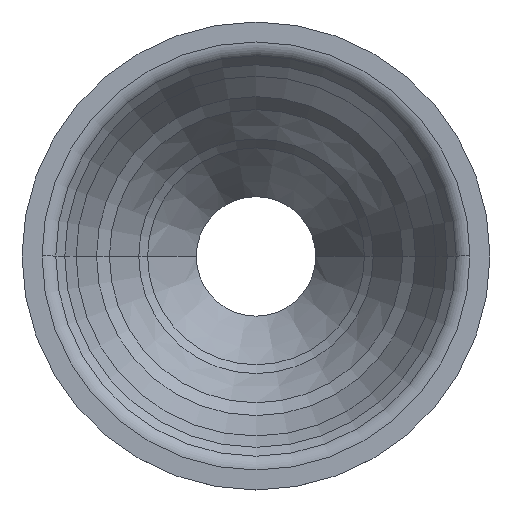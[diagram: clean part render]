
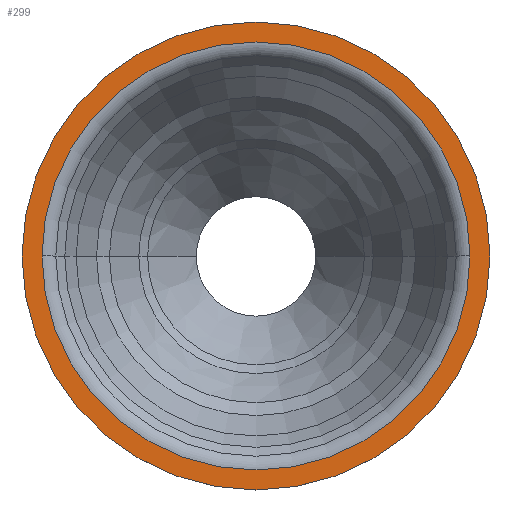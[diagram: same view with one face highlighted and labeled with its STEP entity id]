
A CAD part, top view. The second image highlights one B-rep face of the part: STEP entity #299.
In plain terms, the highlighted planar face has unit normal (0, 0, 1).
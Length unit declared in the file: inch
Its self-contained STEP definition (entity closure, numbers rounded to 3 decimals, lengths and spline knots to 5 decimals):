
#4 = AXIS2_PLACEMENT_3D ( 'NONE', #921, #417, #856 ) ;
#13 = AXIS2_PLACEMENT_3D ( 'NONE', #25, #285, #338 ) ;
#16 = ORIENTED_EDGE ( 'NONE', *, *, #786, .T. ) ;
#22 = EDGE_LOOP ( 'NONE', ( #1018, #542 ) ) ;
#25 = CARTESIAN_POINT ( 'NONE',  ( 0., 0., 0. ) ) ;
#30 = CARTESIAN_POINT ( 'NONE',  ( 0., 0.6875, 0. ) ) ;
#62 = DIRECTION ( 'NONE',  ( 0., 0., 1. ) ) ;
#72 = DIRECTION ( 'NONE',  ( 1., 0., 0. ) ) ;
#97 = AXIS2_PLACEMENT_3D ( 'NONE', #378, #62, #705 ) ;
#108 = FACE_BOUND ( 'NONE', #22, .T. ) ;
#140 = DIRECTION ( 'NONE',  ( 0., 0., 1. ) ) ;
#282 = EDGE_CURVE ( 'NONE', #301, #536, #1020, .T. ) ;
#285 = DIRECTION ( 'NONE',  ( 0., 0., 1. ) ) ;
#299 = ADVANCED_FACE ( 'NONE', ( #108, #427 ), #753, .F. ) ;
#301 = VERTEX_POINT ( 'NONE', #909 ) ;
#338 = DIRECTION ( 'NONE',  ( 1., 0., 0. ) ) ;
#344 = DIRECTION ( 'NONE',  ( 0., 0., -1. ) ) ;
#378 = CARTESIAN_POINT ( 'NONE',  ( 0., 0., 0. ) ) ;
#380 = AXIS2_PLACEMENT_3D ( 'NONE', #30, #344, #679 ) ;
#417 = DIRECTION ( 'NONE',  ( 0., 0., 1. ) ) ;
#427 = FACE_OUTER_BOUND ( 'NONE', #465, .T. ) ;
#439 = CARTESIAN_POINT ( 'NONE',  ( -0.6875, 0., 0. ) ) ;
#464 = EDGE_CURVE ( 'NONE', #536, #301, #599, .T. ) ;
#465 = EDGE_LOOP ( 'NONE', ( #517, #16 ) ) ;
#499 = CARTESIAN_POINT ( 'NONE',  ( 0.6875, 0., 0. ) ) ;
#517 = ORIENTED_EDGE ( 'NONE', *, *, #710, .T. ) ;
#536 = VERTEX_POINT ( 'NONE', #638 ) ;
#542 = ORIENTED_EDGE ( 'NONE', *, *, #282, .F. ) ;
#599 = CIRCLE ( 'NONE', #97, 0.62874 ) ;
#638 = CARTESIAN_POINT ( 'NONE',  ( 0.62874, 0., 0. ) ) ;
#640 = VERTEX_POINT ( 'NONE', #499 ) ;
#672 = CIRCLE ( 'NONE', #4, 0.6875 ) ;
#679 = DIRECTION ( 'NONE',  ( -1., 0., 0. ) ) ;
#705 = DIRECTION ( 'NONE',  ( 1., 0., 0. ) ) ;
#710 = EDGE_CURVE ( 'NONE', #640, #1002, #672, .T. ) ;
#753 = PLANE ( 'NONE',  #380 ) ;
#786 = EDGE_CURVE ( 'NONE', #1002, #640, #940, .T. ) ;
#856 = DIRECTION ( 'NONE',  ( 1., 0., 0. ) ) ;
#880 = AXIS2_PLACEMENT_3D ( 'NONE', #939, #140, #72 ) ;
#909 = CARTESIAN_POINT ( 'NONE',  ( -0.62874, 0., 0. ) ) ;
#921 = CARTESIAN_POINT ( 'NONE',  ( 0., 0., 0. ) ) ;
#939 = CARTESIAN_POINT ( 'NONE',  ( 0., 0., 0. ) ) ;
#940 = CIRCLE ( 'NONE', #880, 0.6875 ) ;
#1002 = VERTEX_POINT ( 'NONE', #439 ) ;
#1018 = ORIENTED_EDGE ( 'NONE', *, *, #464, .F. ) ;
#1020 = CIRCLE ( 'NONE', #13, 0.62874 ) ;
